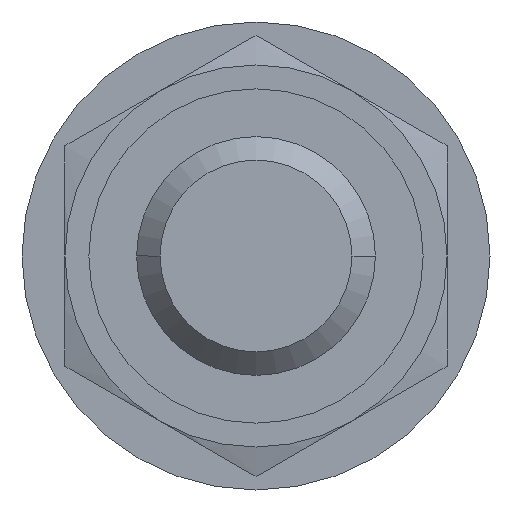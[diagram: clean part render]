
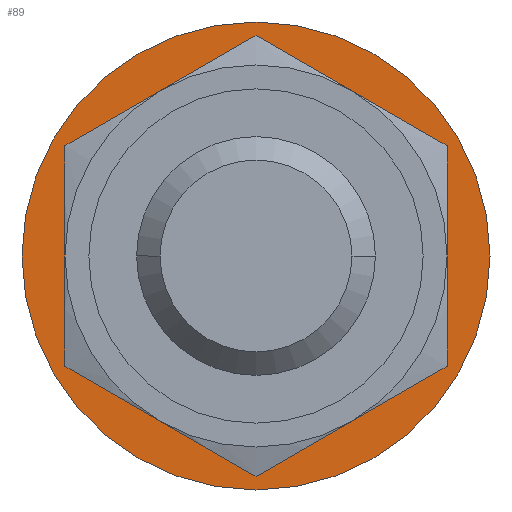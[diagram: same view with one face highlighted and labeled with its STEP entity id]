
A CAD part, front view. The second image highlights one B-rep face of the part: STEP entity #89.
In plain terms, the highlighted planar face has unit normal (0, -1, 0).
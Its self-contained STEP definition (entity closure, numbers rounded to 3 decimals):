
#89 = ADVANCED_FACE( '', ( #146, #147 ), #148, .T. );
#146 = FACE_OUTER_BOUND( '', #236, .T. );
#147 = FACE_BOUND( '', #237, .T. );
#148 = PLANE( '', #238 );
#236 = EDGE_LOOP( '', ( #408, #409 ) );
#237 = EDGE_LOOP( '', ( #410, #411, #412, #413, #414, #415 ) );
#238 = AXIS2_PLACEMENT_3D( '', #416, #417, #418 );
#408 = ORIENTED_EDGE( '', *, *, #609, .F. );
#409 = ORIENTED_EDGE( '', *, *, #656, .F. );
#410 = ORIENTED_EDGE( '', *, *, #657, .T. );
#411 = ORIENTED_EDGE( '', *, *, #658, .T. );
#412 = ORIENTED_EDGE( '', *, *, #659, .T. );
#413 = ORIENTED_EDGE( '', *, *, #660, .T. );
#414 = ORIENTED_EDGE( '', *, *, #661, .T. );
#415 = ORIENTED_EDGE( '', *, *, #662, .T. );
#416 = CARTESIAN_POINT( '', ( 4.45, 5.5, 0. ) );
#417 = DIRECTION( '', ( 0., -1., 0. ) );
#418 = DIRECTION( '', ( -1., 0., 0. ) );
#609 = EDGE_CURVE( '', #706, #709, #710, .T. );
#656 = EDGE_CURVE( '', #709, #706, #794, .T. );
#657 = EDGE_CURVE( '', #741, #764, #795, .T. );
#658 = EDGE_CURVE( '', #764, #753, #796, .T. );
#659 = EDGE_CURVE( '', #753, #770, #797, .T. );
#660 = EDGE_CURVE( '', #770, #779, #798, .T. );
#661 = EDGE_CURVE( '', #779, #788, #799, .T. );
#662 = EDGE_CURVE( '', #788, #741, #800, .T. );
#706 = VERTEX_POINT( '', #850 );
#709 = VERTEX_POINT( '', #854 );
#710 = CIRCLE( '', #855, 4.9 );
#741 = VERTEX_POINT( '', #895 );
#753 = VERTEX_POINT( '', #945 );
#764 = VERTEX_POINT( '', #994 );
#770 = VERTEX_POINT( '', #1036 );
#779 = VERTEX_POINT( '', #1082 );
#788 = VERTEX_POINT( '', #1128 );
#794 = CIRCLE( '', #1170, 4.9 );
#795 = CIRCLE( '', #1171, 4. );
#796 = CIRCLE( '', #1172, 4. );
#797 = CIRCLE( '', #1173, 4. );
#798 = CIRCLE( '', #1174, 4. );
#799 = CIRCLE( '', #1175, 4. );
#800 = CIRCLE( '', #1176, 4. );
#850 = CARTESIAN_POINT( '', ( 4.9, 5.5, 0. ) );
#854 = CARTESIAN_POINT( '', ( -4.9, 5.5, 0. ) );
#855 = AXIS2_PLACEMENT_3D( '', #1221, #1222, #1223 );
#895 = CARTESIAN_POINT( '', ( 4., 5.5, 0. ) );
#945 = CARTESIAN_POINT( '', ( -2., 5.5, -3.464 ) );
#994 = CARTESIAN_POINT( '', ( 2., 5.5, -3.464 ) );
#1036 = CARTESIAN_POINT( '', ( -4., 5.5, 0. ) );
#1082 = CARTESIAN_POINT( '', ( -2., 5.5, 3.464 ) );
#1128 = CARTESIAN_POINT( '', ( 2., 5.5, 3.464 ) );
#1170 = AXIS2_PLACEMENT_3D( '', #1260, #1261, #1262 );
#1171 = AXIS2_PLACEMENT_3D( '', #1263, #1264, #1265 );
#1172 = AXIS2_PLACEMENT_3D( '', #1266, #1267, #1268 );
#1173 = AXIS2_PLACEMENT_3D( '', #1269, #1270, #1271 );
#1174 = AXIS2_PLACEMENT_3D( '', #1272, #1273, #1274 );
#1175 = AXIS2_PLACEMENT_3D( '', #1275, #1276, #1277 );
#1176 = AXIS2_PLACEMENT_3D( '', #1278, #1279, #1280 );
#1221 = CARTESIAN_POINT( '', ( 0., 5.5, 0. ) );
#1222 = DIRECTION( '', ( 0., 1., 0. ) );
#1223 = DIRECTION( '', ( 1., 0., 0. ) );
#1260 = CARTESIAN_POINT( '', ( 0., 5.5, 0. ) );
#1261 = DIRECTION( '', ( 0., 1., 0. ) );
#1262 = DIRECTION( '', ( 1., 0., 0. ) );
#1263 = CARTESIAN_POINT( '', ( 0., 5.5, 0. ) );
#1264 = DIRECTION( '', ( 0., 1., 0. ) );
#1265 = DIRECTION( '', ( 1., 0., 0. ) );
#1266 = CARTESIAN_POINT( '', ( 0., 5.5, 0. ) );
#1267 = DIRECTION( '', ( 0., 1., 0. ) );
#1268 = DIRECTION( '', ( 1., 0., 0. ) );
#1269 = CARTESIAN_POINT( '', ( 0., 5.5, 0. ) );
#1270 = DIRECTION( '', ( 0., 1., 0. ) );
#1271 = DIRECTION( '', ( 1., 0., 0. ) );
#1272 = CARTESIAN_POINT( '', ( 0., 5.5, 0. ) );
#1273 = DIRECTION( '', ( 0., 1., 0. ) );
#1274 = DIRECTION( '', ( 1., 0., 0. ) );
#1275 = CARTESIAN_POINT( '', ( 0., 5.5, 0. ) );
#1276 = DIRECTION( '', ( 0., 1., 0. ) );
#1277 = DIRECTION( '', ( 1., 0., 0. ) );
#1278 = CARTESIAN_POINT( '', ( 0., 5.5, 0. ) );
#1279 = DIRECTION( '', ( 0., 1., 0. ) );
#1280 = DIRECTION( '', ( 1., 0., 0. ) );
